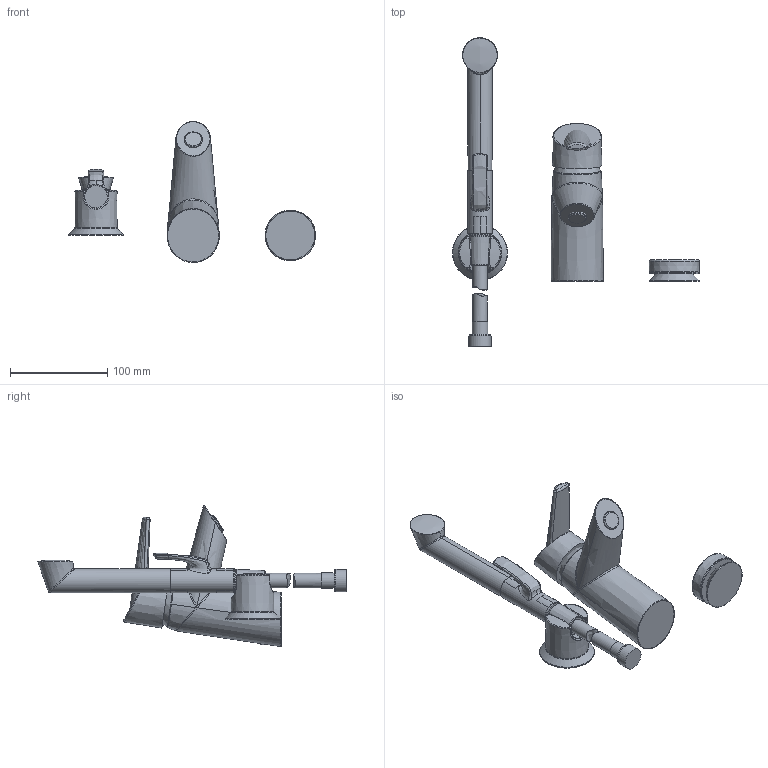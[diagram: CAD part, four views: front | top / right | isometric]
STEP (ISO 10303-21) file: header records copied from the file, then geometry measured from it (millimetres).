
FILE_DESCRIPTION (( 'STEP AP203' ), '1' );
FILE_NAME ('2705F+2715F+2705FT.STEP', '2017-03-09T05:47:45', ( '' ), ( '' ), 'SwSTEP 2.0', 'SolidWorks 2016', '' );
FILE_SCHEMA (( 'CONFIG_CONTROL_DESIGN' ));
Length unit declared in the file: millimetre
Products named in the file (1): 2705F+2715F+2705FT
Bounding box: 254.24 x 317.34 x 145.14 mm (x, y, z)
Volume: 678675.2 mm3; surface area: 106874.9 mm2
Topology: 13 solids, 13 shells, 170 faces, 401 edges, 264 vertices
Faces by surface type: bspline 92, plane 33, torus 16, cylinder 14, cone 9, sphere 6
Full cylindrical faces by diameter (mm): 15 x2, 16.1 x1, 18.631 x1, 19 x1, 22.6 x1, 22.95 x1, 24.4 x1, 24.8 x1, 45.157 x1, 51 x2
Entity records: 31017 total; most frequent: CARTESIAN_POINT 27983, ORIENTED_EDGE 704, DIRECTION 381, EDGE_CURVE 352, VERTEX_POINT 249, B_SPLINE_CURVE_WITH_KNOTS 225, EDGE_LOOP 211, FACE_OUTER_BOUND 196
